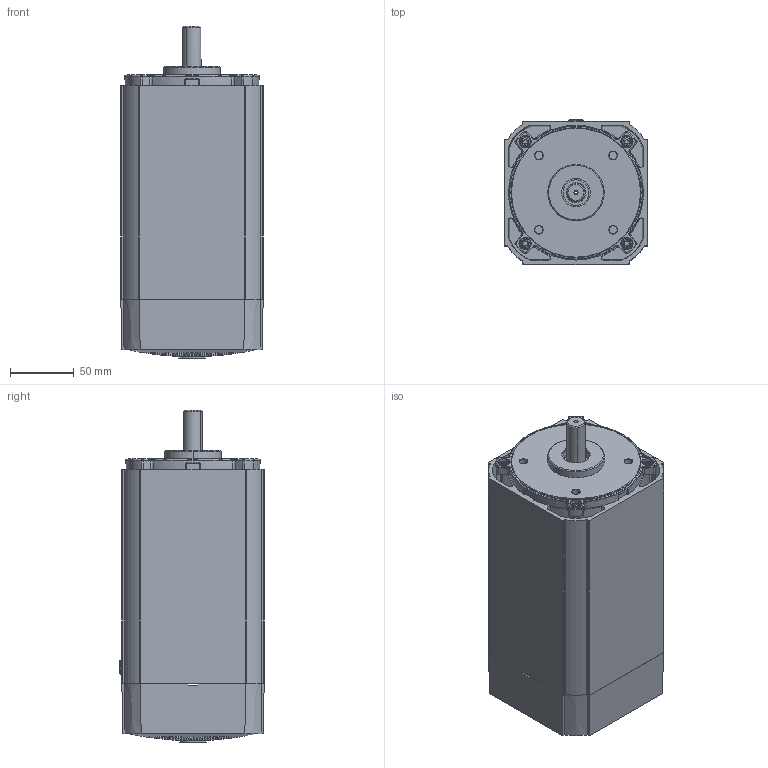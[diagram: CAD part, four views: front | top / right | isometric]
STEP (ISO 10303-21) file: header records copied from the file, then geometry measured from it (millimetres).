
FILE_DESCRIPTION (( 'STEP AP203' ), '1' );
FILE_NAME ('OUTLINE AC10080FC.STEP', '2007-10-30T17:51:57', ( 'eng-rjs2' ), ( 'groschopp' ), 'SwSTEP 2.0', 'SolidWorks 2008', '' );
FILE_SCHEMA (( 'CONFIG_CONTROL_DESIGN' ));
Length unit declared in the file: inch
Products named in the file (1): OUTLINE AC10080FC
Bounding box: 112.27 x 113.86 x 260.74 mm (x, y, z)
Surface area: 234953.9 mm2 (no closed solid volume)
Topology: 0 solids, 38 shells, 949 faces, 3009 edges, 2029 vertices
Faces by surface type: plane 556, cylinder 212, bspline 60, cone 58, torus 53, sphere 10
Entity records: 35230 total; most frequent: CARTESIAN_POINT 8723, DIRECTION 5928, ORIENTED_EDGE 4944, EDGE_CURVE 3009, AXIS2_PLACEMENT_3D 2370, VERTEX_POINT 2029, CIRCLE 1480, VECTOR 1188
